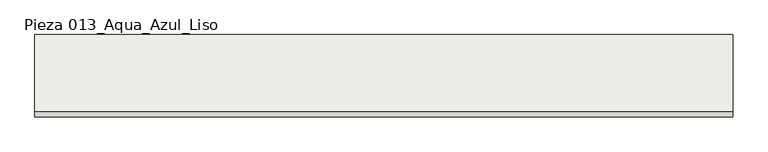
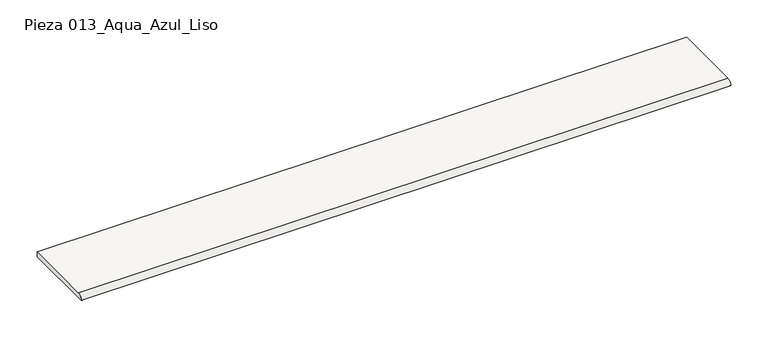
"""IFC4 building model written with IfcOpenShell, lengths in millimetres: slab geometry, ROSA GRES_013 : Pieza 013_Aqua_Azul_Liso."""

from ifc_helpers import new_model, si_unit, point, frame, frame_2d, origin, place, context, project, spatial, polyline, circle_curve, trimmed, segment, composite_curve, outline, extrude, source, transform, mapped, element, save


def pieza_013_aqua_azul_liso_0e0fd73c(model_context):
    return source(origin(), model_context, "Body", "SweptSolid", [
        extrude(outline(composite_curve([segment(polyline([(0.7830162, 0.0), (0.0, 0.7830162)]), True, "CONTINUOUS"), segment(trimmed(circle_curve(frame_2d((9.4741171, -1.740645)), 9.8044766), [point((0.0, 0.7830162))], [point((8.3571586, 8.0))], False, "CARTESIAN"), True, "CONTINUOUS"), segment(polyline([(8.3571586, 8.0), (119.0, 8.0), (119.0, 0.0), (0.7830162, 0.0)]), True, "CONTINUOUS")], self_intersect=False)), frame((0.0, 0.0, 0.0), z_axis=(1.0, 0.0, 0.0), x_axis=(0.0, 1.0, 0.0)), (0.0, 0.0, 1.0), 1008.0),
    ])


if __name__ == "__main__":
    model = new_model("IFC4")
    model_context = context("Model", 3, world=origin())
    ifc_project = project(units=[si_unit("LENGTHUNIT", "METRE", prefix="MILLI")], contexts=[model_context])
    site = spatial("IfcSite", under=ifc_project)
    building = spatial("IfcBuilding", under=site)
    placement = place(None, origin())
    pieza_013_aqua_azul_liso_shape = pieza_013_aqua_azul_liso_0e0fd73c(model_context)
    element("IfcSlab", 1, ObjectType="ROSA GRES_013 : Pieza 013_Aqua_Azul_Liso", at=placement, inside=building, context=model_context, shape_type="MappedRepresentation", body=[
        mapped(pieza_013_aqua_azul_liso_shape, transform((0.0, 0.0, 0.0), x_axis=(1.0, 0.0, 0.0), y_axis=(0.0, 1.0, 0.0), z_axis=(0.0, 0.0, 1.0))),
    ])
    save(model, "model.ifc")
